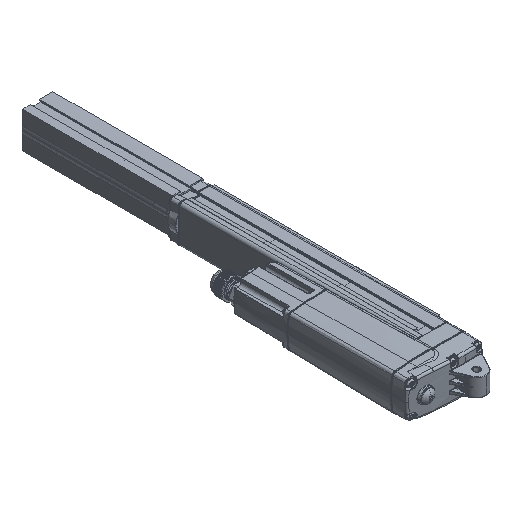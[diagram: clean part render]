
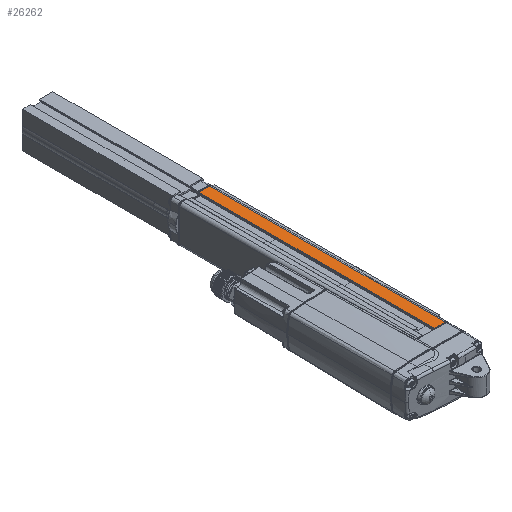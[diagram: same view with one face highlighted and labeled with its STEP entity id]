
A CAD part, isometric view. The second image highlights one B-rep face of the part: STEP entity #26262.
In plain terms, the highlighted planar face has unit normal (0, 0, 1) as drawn and (-1, 0, 0) by its records, which use the part's own axes.
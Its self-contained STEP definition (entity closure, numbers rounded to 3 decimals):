
#58 = ORIENTED_EDGE ( 'NONE', *, *, #72047, .T. ) ;
#3638 = VERTEX_POINT ( 'NONE', #152206 ) ;
#5342 = DIRECTION ( 'NONE',  ( 0., -1., 0. ) ) ;
#9376 = VECTOR ( 'NONE', #20275, 1000. ) ;
#14135 = CARTESIAN_POINT ( 'NONE',  ( -19.01, 16.661, 0. ) ) ;
#17907 = EDGE_LOOP ( 'NONE', ( #107553, #58, #70144, #81075 ) ) ;
#20275 = DIRECTION ( 'NONE',  ( 0., 0., 1. ) ) ;
#26262 = ADVANCED_FACE ( 'NONE', ( #44729 ), #128888, .F. ) ;
#44123 = VERTEX_POINT ( 'NONE', #168274 ) ;
#44729 = FACE_OUTER_BOUND ( 'NONE', #17907, .T. ) ;
#48530 = CARTESIAN_POINT ( 'NONE',  ( -19.01, 16.661, 236. ) ) ;
#68771 = LINE ( 'NONE', #128072, #157544 ) ;
#70144 = ORIENTED_EDGE ( 'NONE', *, *, #100989, .F. ) ;
#72047 = EDGE_CURVE ( 'NONE', #44123, #3638, #134132, .T. ) ;
#80999 = VERTEX_POINT ( 'NONE', #48530 ) ;
#81075 = ORIENTED_EDGE ( 'NONE', *, *, #166207, .T. ) ;
#84469 = VECTOR ( 'NONE', #152292, 1000. ) ;
#86657 = CARTESIAN_POINT ( 'NONE',  ( -19.01, 16.661, 236. ) ) ;
#97133 = AXIS2_PLACEMENT_3D ( 'NONE', #156642, #141900, #116469 ) ;
#98319 = VERTEX_POINT ( 'NONE', #14135 ) ;
#98566 = DIRECTION ( 'NONE',  ( 0., -1., 0. ) ) ;
#100989 = EDGE_CURVE ( 'NONE', #80999, #3638, #68771, .T. ) ;
#107553 = ORIENTED_EDGE ( 'NONE', *, *, #168324, .T. ) ;
#116469 = DIRECTION ( 'NONE',  ( 0., 1., 0. ) ) ;
#128072 = CARTESIAN_POINT ( 'NONE',  ( -19.01, 16.661, 236. ) ) ;
#128888 = PLANE ( 'NONE',  #97133 ) ;
#134132 = LINE ( 'NONE', #142489, #9376 ) ;
#135154 = LINE ( 'NONE', #86657, #84469 ) ;
#141900 = DIRECTION ( 'NONE',  ( 1., 0., 0. ) ) ;
#142489 = CARTESIAN_POINT ( 'NONE',  ( -19.01, 5.9, 236. ) ) ;
#152206 = CARTESIAN_POINT ( 'NONE',  ( -19.01, 5.9, 236. ) ) ;
#152292 = DIRECTION ( 'NONE',  ( 0., 0., -1. ) ) ;
#156642 = CARTESIAN_POINT ( 'NONE',  ( -19.01, 16.661, 236. ) ) ;
#157544 = VECTOR ( 'NONE', #98566, 1000. ) ;
#164284 = VECTOR ( 'NONE', #5342, 1000. ) ;
#166207 = EDGE_CURVE ( 'NONE', #80999, #98319, #135154, .T. ) ;
#166547 = CARTESIAN_POINT ( 'NONE',  ( -19.01, 16.661, 0. ) ) ;
#168274 = CARTESIAN_POINT ( 'NONE',  ( -19.01, 5.9, 0. ) ) ;
#168324 = EDGE_CURVE ( 'NONE', #98319, #44123, #170509, .T. ) ;
#170509 = LINE ( 'NONE', #166547, #164284 ) ;
